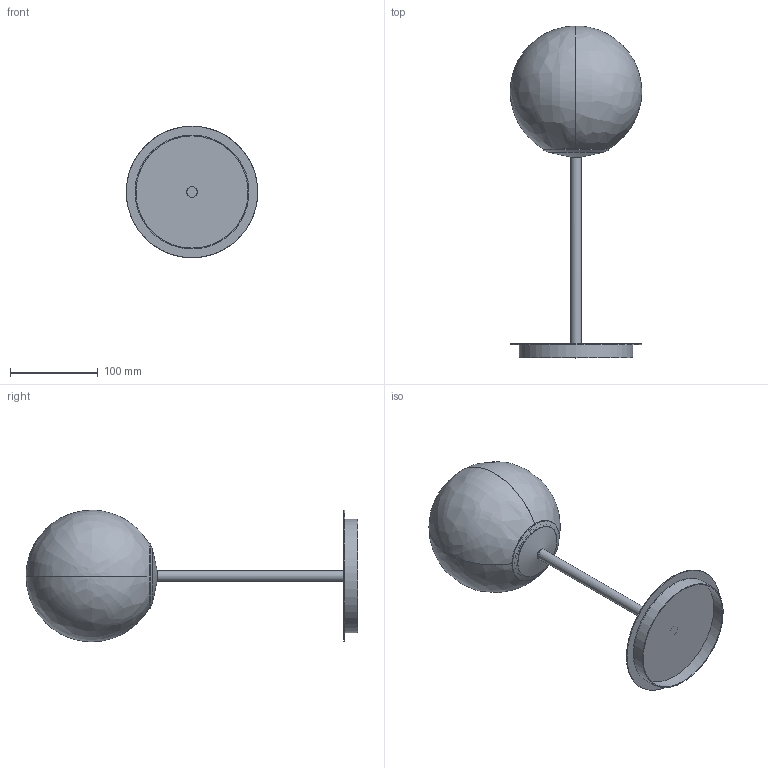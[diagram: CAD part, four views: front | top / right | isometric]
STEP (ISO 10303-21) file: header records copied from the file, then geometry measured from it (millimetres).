
FILE_DESCRIPTION(('FreeCAD Model'),'2;1');
FILE_NAME('Open CASCADE Shape Model','2022-12-21T10:56:35',('Author'),( ''),'Open CASCADE STEP processor 7.6','FreeCAD','Unknown');
FILE_SCHEMA(('AUTOMOTIVE_DESIGN { 1 0 10303 214 1 1 1 1 }'));
Length unit declared in the file: millimetre
Products named in the file (13): Unnamed3; PARMA_S3946080_3D; PARMA_S3946080_3D001; PARMA_S3946080_3D002; PARMA_S3946080_3D003; PARMA_S3946080_3D004; PARMA_S3946080_3D005; PARMA_S3946080_3D006; PARMA_S3946080_3D007; PARMA_S3946080_3D008; PARMA_S3946080_3D009; PARMA_S3946080_3D010; PARMA_S3946080_3D011
Assembly tree (12 placements, depth 2):
  Unnamed3
    PARMA_S3946080_3D
    PARMA_S3946080_3D001
    PARMA_S3946080_3D002
    PARMA_S3946080_3D003
    PARMA_S3946080_3D004
    PARMA_S3946080_3D005
    PARMA_S3946080_3D006
    PARMA_S3946080_3D007
    PARMA_S3946080_3D008
    PARMA_S3946080_3D009
    PARMA_S3946080_3D010
    PARMA_S3946080_3D011
Bounding box: 150 x 378.62 x 150 mm (x, y, z)
Volume: 126226.5 mm3; surface area: 249381.1 mm2
Topology: 9 solids, 17 shells, 159 faces, 357 edges, 214 vertices
Faces by surface type: bspline 159
Entity records: 17488 total; most frequent: CARTESIAN_POINT 11860, ORIENTED_EDGE 657, PCURVE 657, DEFINITIONAL_REPRESENTATION 657, DIRECTION 514, LINE 488, VECTOR 488, EDGE_CURVE 346
